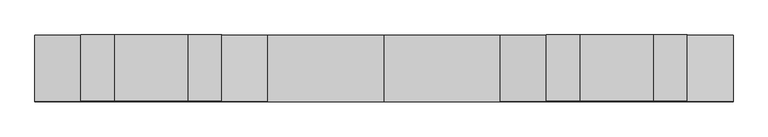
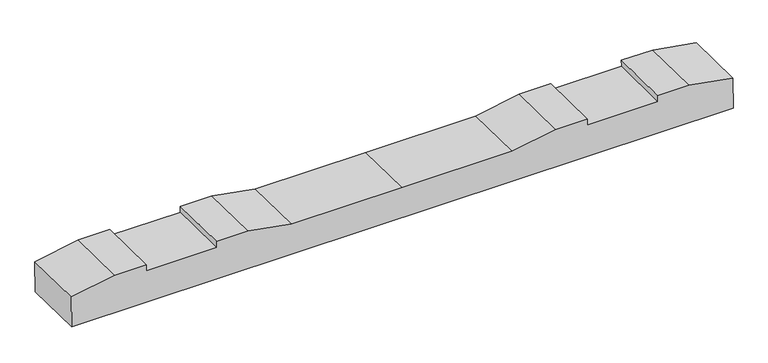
"""IFC4 building model written with IfcOpenShell, lengths in millimetres: proxy geometry, 轨枕-立面角度 : 轨枕-立面角度."""

import ifcopenshell
import ifcopenshell.guid

model = None  # the IFC model being written
_history = None  # IfcOwnerHistory: only IFC2X3 demands one
_inside = {}  # id of a spatial element -> (the spatial element, [elements in it])
_under = {}  # id of a project, library or spatial element -> (it, [spatial elements below it])
_declared = {}  # id of a project -> (the project, [libraries it declares])
_typed = {}  # id of a type object -> (the type object, [elements of that type])
_made_of = {}  # id of a material, layer set ... -> (it, [elements and type objects made of it])


def new_model(schema):
    """Start an empty IFC model of exactly this schema.

    Asked for "IFC4X3", IfcOpenShell would pick the latest addendum, in which some entities
    have other attributes; the version numbers below select the first issue.
    IFC2X3 requires an IfcOwnerHistory on every rooted entity: one is made here for all.
    """
    global model, _history
    if schema == "IFC4X3":
        model = ifcopenshell.file(schema_version=(4, 3, 0, 0))
    else:
        model = ifcopenshell.file(schema=schema)
    _inside.clear()
    _under.clear()
    _declared.clear()
    _typed.clear()
    _made_of.clear()
    _history = None
    if model.schema == "IFC2X3":
        org = make("IfcOrganization", Name="unknown")
        user = make(
            "IfcPersonAndOrganization",
            ThePerson=make("IfcPerson", FamilyName="unknown"),
            TheOrganization=org,
        )
        app = make(
            "IfcApplication",
            ApplicationDeveloper=org,
            Version="unknown",
            ApplicationFullName="unknown",
            ApplicationIdentifier="unknown",
        )
        _history = make(
            "IfcOwnerHistory",
            OwningUser=user,
            OwningApplication=app,
            ChangeAction="ADDED",
            CreationDate=0,
        )
    return model


def make(cls, **values):
    """One entity of the class cls with the attributes given. An attribute that is None is left unset."""
    return model.create_entity(
        cls, **{name: value for name, value in values.items() if value is not None}
    )


def rooted(cls, **values):
    """An entity with a GlobalId (a new one), such as an element, a storey or a relation."""
    return make(cls, GlobalId=ifcopenshell.guid.new(), OwnerHistory=_history, **values)


def si_unit(unit_type, name, prefix=None):
    """IfcSIUnit, for example si_unit("LENGTHUNIT", "METRE", prefix="MILLI")."""
    return make("IfcSIUnit", UnitType=unit_type, Prefix=prefix, Name=name)


def assignment(units):
    """IfcUnitAssignment: the units of a project."""
    return None if units is None else make("IfcUnitAssignment", Units=units)


def point(xyz):
    """IfcCartesianPoint."""
    return None if xyz is None else make("IfcCartesianPoint", Coordinates=xyz)


def direction(xyz):
    """IfcDirection."""
    return None if xyz is None else make("IfcDirection", DirectionRatios=xyz)


def frame(location, z_axis=None, x_axis=None):
    """IfcAxis2Placement3D, a coordinate frame: its origin and axes. An axis left out is left unset."""
    return make(
        "IfcAxis2Placement3D",
        Location=point(location),
        Axis=direction(z_axis),
        RefDirection=direction(x_axis),
    )


def origin():
    """The frame at (0, 0, 0) with its axes left unset."""
    return frame((0.0, 0.0, 0.0))


def place(relative_to, where):
    """IfcLocalPlacement: puts the frame where relative to a parent placement (None: the world)."""
    return make(
        "IfcLocalPlacement", PlacementRelTo=relative_to, RelativePlacement=where
    )


def context(
    kind, dimensions, precision=None, world=None, true_north=None, identifier=None
):
    """IfcGeometricRepresentationContext, for example the 3D "Model" context."""
    return make(
        "IfcGeometricRepresentationContext",
        ContextIdentifier=identifier,
        ContextType=kind,
        CoordinateSpaceDimension=dimensions,
        Precision=precision,
        WorldCoordinateSystem=world,
        TrueNorth=true_north,
    )


def project(units=None, contexts=None):
    """IfcProject with its units and contexts."""
    return rooted(
        "IfcProject",
        Name="project",
        RepresentationContexts=contexts,
        UnitsInContext=assignment(units),
    )


def spatial(cls, under=None, at=None, **own):
    """A site, building, storey or space (cls), placed at a placement, below another one or the project."""
    s = rooted(cls, ObjectPlacement=at, **own)
    if under is not None:
        _under.setdefault(under.id(), (under, []))[1].append(s)
    return s


def polyline(points):
    """IfcPolyline through the points."""
    return make("IfcPolyline", Points=[point(p) for p in points])


def outline(outer, holes=None, kind="AREA"):
    """IfcArbitraryClosedProfileDef: a profile drawn as a closed curve; with holes, ...WithVoids."""
    if holes is None:
        return make("IfcArbitraryClosedProfileDef", ProfileType=kind, OuterCurve=outer)
    return make(
        "IfcArbitraryProfileDefWithVoids",
        ProfileType=kind,
        OuterCurve=outer,
        InnerCurves=holes,
    )


def extrude(swept, where, along, depth):
    """IfcExtrudedAreaSolid: the profile swept, set in the frame where, extruded along a direction by depth."""
    return make(
        "IfcExtrudedAreaSolid",
        SweptArea=swept,
        Position=where,
        ExtrudedDirection=direction(along),
        Depth=depth,
    )


def shape(context_of_items, identifier, shape_type, items):
    """IfcShapeRepresentation: the items that make up one representation, for example the "Body"."""
    return make(
        "IfcShapeRepresentation",
        ContextOfItems=context_of_items,
        RepresentationIdentifier=identifier,
        RepresentationType=shape_type,
        Items=items,
    )


def source(mapping_origin, context_of_items, identifier, shape_type, items):
    """IfcRepresentationMap: a shape defined once, which mapped items show again and again."""
    return make(
        "IfcRepresentationMap",
        MappingOrigin=mapping_origin,
        MappedRepresentation=shape(context_of_items, identifier, shape_type, items),
    )


def transform(
    local_origin,
    x_axis=None,
    y_axis=None,
    z_axis=None,
    scale=None,
    scale2=None,
    scale3=None,
    uniform=True,
):
    """IfcCartesianTransformationOperator3D, or its non-uniform kind. x_axis, y_axis, z_axis: its Axis1, 2, 3."""
    if uniform:
        return make(
            "IfcCartesianTransformationOperator3D",
            Axis1=direction(x_axis),
            Axis2=direction(y_axis),
            LocalOrigin=point(local_origin),
            Scale=scale,
            Axis3=direction(z_axis),
        )
    return make(
        "IfcCartesianTransformationOperator3DnonUniform",
        Axis1=direction(x_axis),
        Axis2=direction(y_axis),
        LocalOrigin=point(local_origin),
        Scale=scale,
        Axis3=direction(z_axis),
        Scale2=scale2,
        Scale3=scale3,
    )


def mapped(mapping_source, mapping_target):
    """IfcMappedItem: shows the shape of a source again, moved by a transform."""
    return make(
        "IfcMappedItem", MappingSource=mapping_source, MappingTarget=mapping_target
    )


def made_of(thing, what):
    """Note that an element or type object is made of a material, layer set ...; save() writes the relation."""
    if what is not None:
        _made_of.setdefault(what.id(), (what, []))[1].append(thing)
    return thing


def element(
    cls,
    number,
    at=None,
    inside=None,
    cuts=None,
    type_object=None,
    material=None,
    context=None,
    identifier="Body",
    shape_type=None,
    held_by="IfcProductDefinitionShape",
    body=None,
    shapes=None,
    **own,
):
    """One element of the class cls, such as IfcWall. Its Tag is "e" and its number.

    at: its placement. inside: the storey or other place that contains it. cuts: it is an
    opening in that element (IfcRelVoidsElement). A single representation is given by context,
    identifier, shape_type and body (its items); several are given by shapes. held_by: the class
    of the entity that holds the representations. save() writes the other relations.
    """
    e = rooted(cls, Tag="e%d" % number, ObjectPlacement=at, **own)
    if body is not None:
        shapes = [shape(context, identifier, shape_type, body)]
    if shapes is not None:
        e.Representation = make(held_by, Representations=shapes)
    if inside is not None:
        _inside.setdefault(inside.id(), (inside, []))[1].append(e)
    if cuts is not None:
        rooted(
            "IfcRelVoidsElement", RelatingBuildingElement=cuts, RelatedOpeningElement=e
        )
    if type_object is not None:
        _typed.setdefault(type_object.id(), (type_object, []))[1].append(e)
    return made_of(e, material)


def aggregate(whole, parts):
    """IfcRelAggregates: a whole, such as a stair, and the parts it consists of."""
    return rooted("IfcRelAggregates", RelatingObject=whole, RelatedObjects=parts)


def save(model, path):
    """Write the relations noted so far, then the file.

    IfcRelAggregates (storeys below a building ...), IfcRelContainedInSpatialStructure (elements
    in a storey), IfcRelDefinesByType, IfcRelAssociatesMaterial and IfcRelDeclares: one each for
    every whole, place, type object, material and project.
    """
    for whole, parts in _under.values():
        aggregate(whole, parts)
    for where, things in _inside.values():
        rooted(
            "IfcRelContainedInSpatialStructure",
            RelatedElements=things,
            RelatingStructure=where,
        )
    for kind, things in _typed.values():
        rooted("IfcRelDefinesByType", RelatedObjects=things, RelatingType=kind)
    for what, things in _made_of.values():
        rooted("IfcRelAssociatesMaterial", RelatedObjects=things, RelatingMaterial=what)
    for by, libraries in _declared.values():
        rooted("IfcRelDeclares", RelatingContext=by, RelatedDefinitions=libraries)
    model.write(path)


def generic_models_8ed5b6d6(model_context):
    return source(origin(), model_context, "Body", "SweptSolid", [
        extrude(outline(polyline([(0.0, 0.0), (0.0, -100.020689), (-137.8834664, -124.5000001), (-237.8834664, -124.5000001), (-237.8834664, -104.5000001), (-461.8834664, -104.5000001), (-461.8834664, -124.5000001), (-561.8834664, -124.5000001), (-699.8834664, -100.0), (-1049.8834664, -100.0), (-1399.8834664, -100.0), (-1537.8834664, -124.5000001), (-1637.8834664, -124.5000001), (-1637.8834664, -104.5000001), (-1861.8834664, -104.5000001), (-1861.8834664, -124.5000001), (-1961.8834664, -124.5000001), (-2099.7669328, -100.020689), (-2099.7669328, 0.0), (0.0, 0.0)])), frame((-1049.8834664, 98.7189704, -105.710997), z_axis=(0.0, -0.9999257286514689, 0.012187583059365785), x_axis=(-1.0, 0.0, 0.0)), (0.0, 0.0, 1.0), 200.0),
    ])


if __name__ == "__main__":
    model = new_model("IFC4")
    model_context = context("Model", 3, world=origin())
    ifc_project = project(units=[si_unit("LENGTHUNIT", "METRE", prefix="MILLI")], contexts=[model_context])
    site = spatial("IfcSite", under=ifc_project)
    building = spatial("IfcBuilding", under=site)
    placement = place(None, origin())
    generic_models_shape = generic_models_8ed5b6d6(model_context)
    element("IfcBuildingElementProxy", 1, Name="轨枕-立面角度 : 轨枕-立面角度", ObjectType="轨枕-立面角度 : 轨枕-立面角度", at=placement, inside=building, context=model_context, shape_type="MappedRepresentation", body=[
        mapped(generic_models_shape, transform((0.0, 0.0, 0.0), x_axis=(1.0, 0.0, 0.0), y_axis=(0.0, 1.0, 0.0), z_axis=(0.0, 0.0, 1.0))),
    ])
    save(model, "model.ifc")
